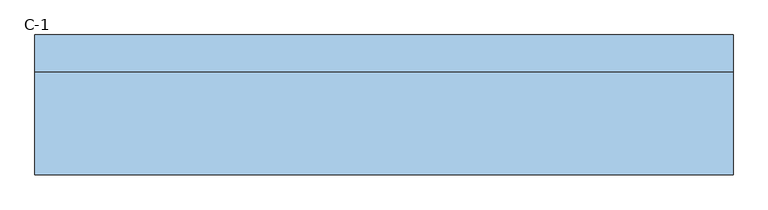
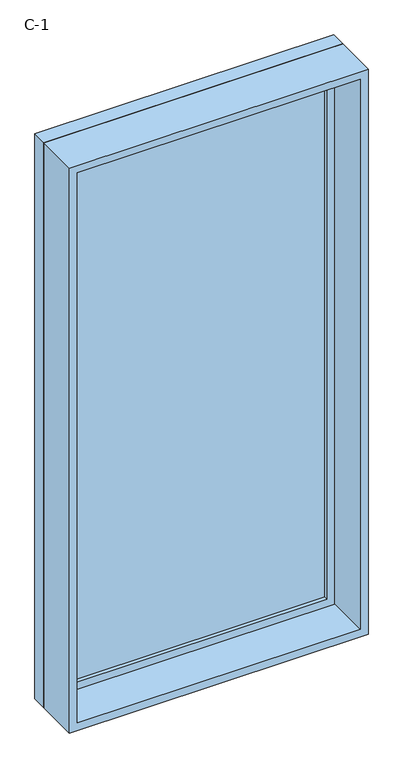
"""IFC4 building model written with IfcOpenShell, lengths in millimetres: window geometry, 固定 : C-1."""

from ifc_helpers import new_model, si_unit, frame, origin, place, context, project, spatial, polyline, outline, extrude, source, transform, mapped, element, save


def c_1_92099e65(model_context):
    return source(origin(), model_context, "Body", "SweptSolid", [
        extrude(outline(polyline([(-537.0, 98.0), (537.0, 98.0), (537.0, 86.0), (-537.0, 86.0), (-537.0, 98.0)])), frame((0.0, 0.0, 978.0), z_axis=(0.0, 0.0, 1.0), x_axis=(1.0, 0.0, 0.0)), (0.0, 0.0, 1.0), 2274.0),
        extrude(outline(polyline([(3296.0, -581.0), (934.0, -581.0), (934.0, 581.0), (3296.0, 581.0), (3296.0, -581.0)]), holes=[polyline([(3252.0, -537.0), (3252.0, 537.0), (978.0, 537.0), (978.0, -537.0), (3252.0, -537.0)])]), frame((0.0, 70.0, 0.0), z_axis=(0.0, 1.0, 0.0), x_axis=(0.0, 0.0, 1.0)), (0.0, 0.0, 1.0), 44.0),
        extrude(outline(polyline([(3315.0, -600.0), (915.0, -600.0), (915.0, 600.0), (3315.0, 600.0), (3315.0, -600.0)]), holes=[polyline([(3296.0, -581.0), (3296.0, 581.0), (934.0, 581.0), (934.0, -581.0), (3296.0, -581.0)])]), frame((0.0, 70.0, 0.0), z_axis=(0.0, 1.0, 0.0), x_axis=(0.0, 0.0, 1.0)), (0.0, 0.0, 1.0), 63.0),
        extrude(outline(polyline([(3315.0, -600.0), (915.0, -600.0), (915.0, 600.0), (3315.0, 600.0), (3315.0, -600.0)]), holes=[polyline([(3283.0, -568.0), (3283.0, 568.0), (947.0, 568.0), (947.0, -568.0), (3283.0, -568.0)])]), frame((0.0, -107.0, 0.0), z_axis=(0.0, 1.0, 0.0), x_axis=(0.0, 0.0, 1.0)), (0.0, 0.0, 1.0), 177.0),
    ])


if __name__ == "__main__":
    model = new_model("IFC4")
    model_context = context("Model", 3, world=origin())
    ifc_project = project(units=[si_unit("LENGTHUNIT", "METRE", prefix="MILLI")], contexts=[model_context])
    site = spatial("IfcSite", under=ifc_project)
    building = spatial("IfcBuilding", under=site)
    placement = place(None, origin())
    c_1_shape = c_1_92099e65(model_context)
    element("IfcWindow", 1, ObjectType="固定 : C-1", at=placement, inside=building, context=model_context, shape_type="MappedRepresentation", body=[
        mapped(c_1_shape, transform((0.0, 0.0, 0.0), x_axis=(1.0, 0.0, 0.0), y_axis=(0.0, 1.0, 0.0), z_axis=(0.0, 0.0, 1.0))),
    ])
    save(model, "model.ifc")
